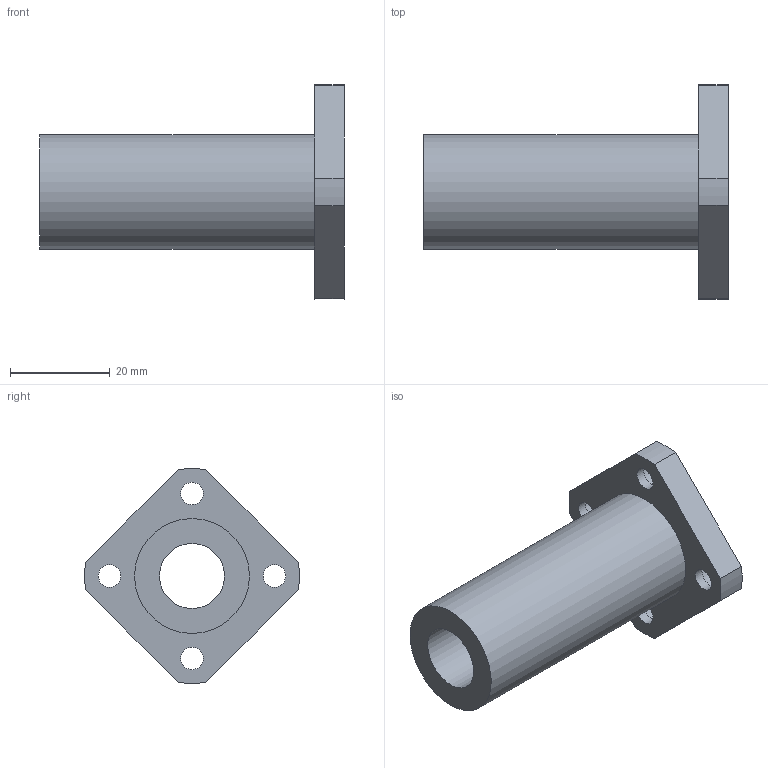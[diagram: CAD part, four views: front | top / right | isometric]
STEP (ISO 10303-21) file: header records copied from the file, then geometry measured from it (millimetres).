
FILE_DESCRIPTION(/* description */ ('Unknown'),/* implementation_level */ '2;1');
FILE_NAME(/* name */ 'LMK13LUU',/* time_stamp */ '2025-02-04T10:41:05+08:00',/* author */ ('Unknown'),/* organization */ ('Unknown'),/* preprocessor_version */ 'ST-DEVELOPER v18.102',/* originating_system */ 'Solid Edge',/* authorisation */ 'Unknown');
FILE_SCHEMA (('AUTOMOTIVE_DESIGN {1 0 10303 214 3 1 1}'));
Length unit declared in the file: millimetre
Products named in the file (1): LMK13LUU
Bounding box: 61 x 42.96 x 42.96 mm (x, y, z)
Volume: 20683.3 mm3; surface area: 9587 mm2
Topology: 1 solids, 1 shells, 25 faces, 54 edges, 36 vertices
Faces by surface type: cylinder 14, plane 11
Full cylindrical faces by diameter (mm): 4.5 x4, 7.5 x4, 13 x1, 23 x1
Entity records: 696 total; most frequent: DIRECTION 124, CARTESIAN_POINT 106, ORIENTED_EDGE 88, AXIS2_PLACEMENT_3D 54, EDGE_LOOP 50, FACE_BOUND 50, EDGE_CURVE 44, VERTEX_POINT 36
